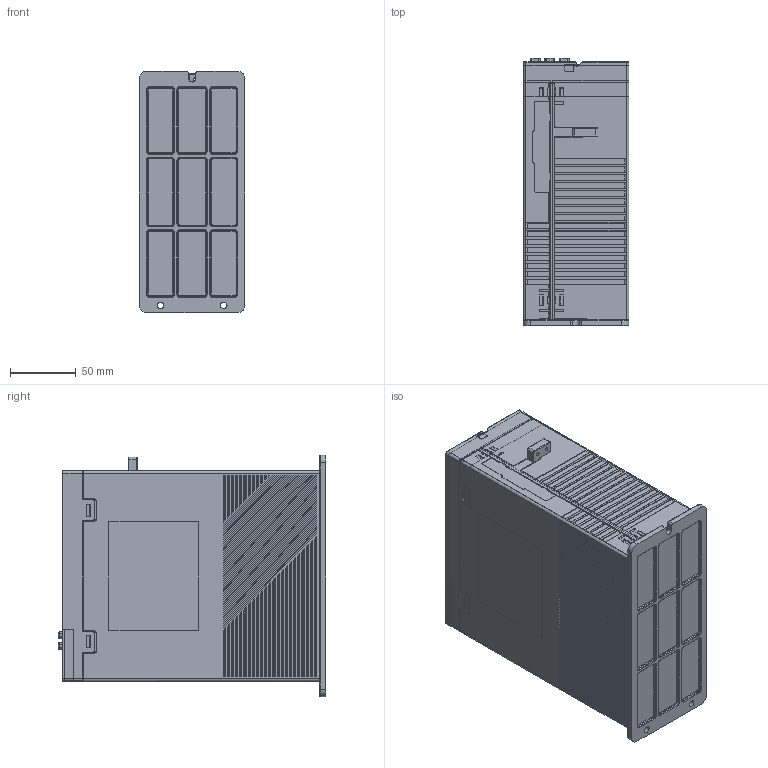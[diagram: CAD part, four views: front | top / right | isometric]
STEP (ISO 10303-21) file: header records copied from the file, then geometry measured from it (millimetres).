
FILE_DESCRIPTION((''),'2;1');
FILE_NAME('BD3-D_ASM','2024-04-22T15:39:02',('qiaolun'),(''),'CREO PARAMETRIC BY PTC INC, 2021063','CREO PARAMETRIC BY PTC INC, 2021063','');
FILE_SCHEMA(('CONFIG_CONTROL_DESIGN'));
Products named in the file (9): 11; 12; 13; 15; 16; 41; 42; 2_ASM; BD3-D_ASM
Assembly tree (8 placements, depth 3):
  BD3-D_ASM
    2_ASM
      11
      12
      13
      15
      16
      41
      42
Bounding box: 80.12 x 202.91 x 183 mm (x, y, z)
Surface area: 351915.8 mm2
Topology: 7 solids, 7 shells, 2434 faces, 6111 edges, 3945 vertices
Faces by surface type: plane 1717, cylinder 374, bspline 160, cone 115, extrusion 44, torus 20, revolution 4
Entity records: 81150 total; most frequent: CARTESIAN_POINT 24002, ORIENTED_EDGE 12222, DIRECTION 10669, EDGE_CURVE 6111, VECTOR 4823, LINE 4779, VERTEX_POINT 3945, AXIS2_PLACEMENT_3D 2921
